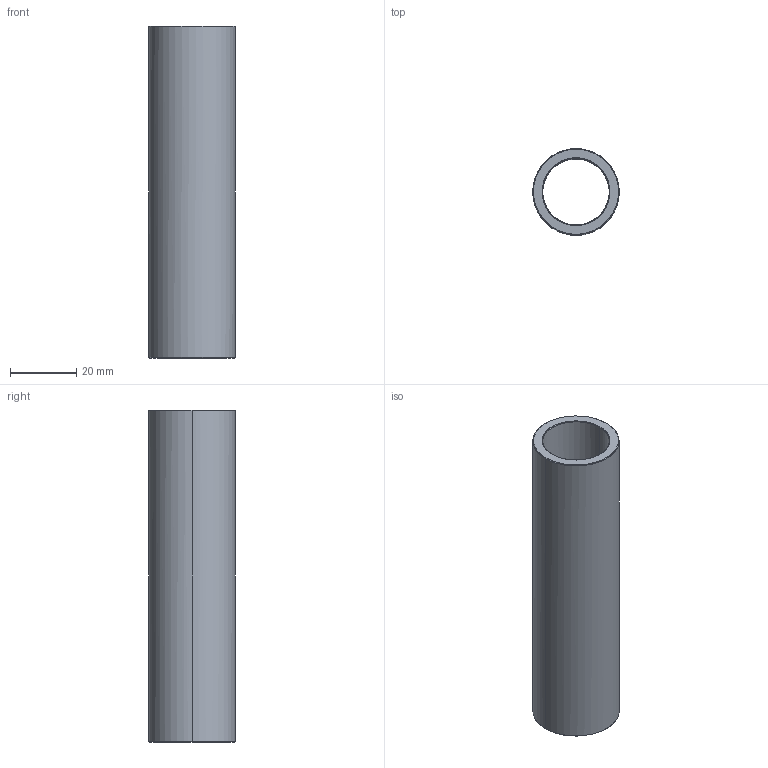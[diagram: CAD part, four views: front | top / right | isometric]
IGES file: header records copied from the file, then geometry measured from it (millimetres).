
Start section: Write IGES format                                    datakit 2008 (c)
Global section: file name: Unknown; native system: DATAKIT Converter; preprocessor: Unknown; author: Unknown; organization: Unknown; date: 950613.180003; units: millimetre
Bounding box: 26 x 25.94 x 100 mm (x, y, z)
Surface area: 14851 mm2 (no closed solid volume)
Topology: 0 solids, 0 shells, 14 faces, 56 edges, 56 vertices
Faces by surface type: revolution 12, bspline 2
